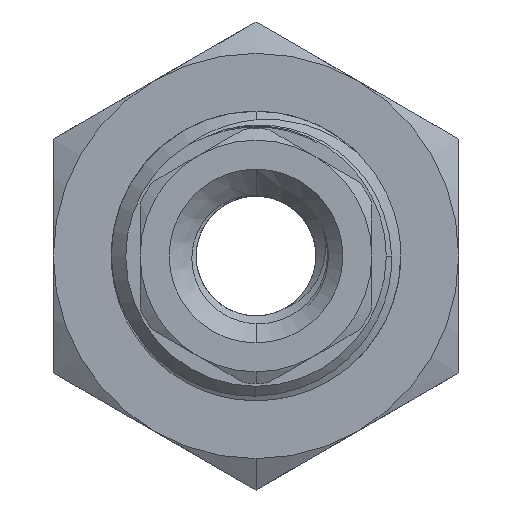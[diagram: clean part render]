
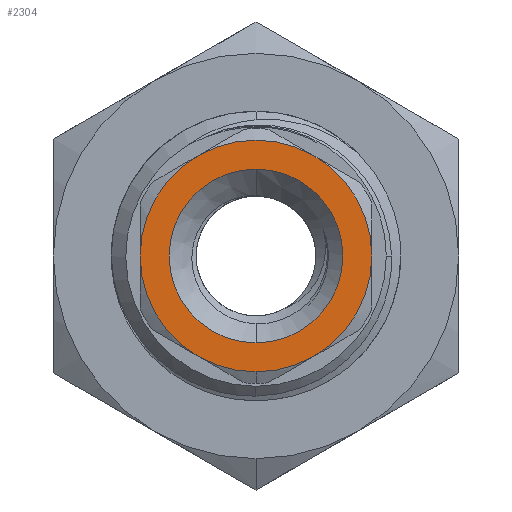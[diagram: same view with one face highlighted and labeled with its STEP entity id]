
A CAD part, front view. The second image highlights one B-rep face of the part: STEP entity #2304.
In plain terms, the highlighted planar face has unit normal (0, -1, 0).
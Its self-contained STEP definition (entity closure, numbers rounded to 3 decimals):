
#31 = AXIS2_PLACEMENT_3D ( 'NONE', #2966, #6868, #4028 ) ;
#69 = AXIS2_PLACEMENT_3D ( 'NONE', #1222, #2945, #7466 ) ;
#383 = CIRCLE ( 'NONE', #4038, 4. ) ;
#445 = EDGE_CURVE ( 'NONE', #1782, #6202, #6078, .T. ) ;
#542 = VERTEX_POINT ( 'NONE', #4516 ) ;
#691 = VERTEX_POINT ( 'NONE', #1859 ) ;
#751 = EDGE_CURVE ( 'NONE', #6894, #6018, #4994, .T. ) ;
#814 = EDGE_CURVE ( 'NONE', #542, #2979, #383, .T. ) ;
#950 = CARTESIAN_POINT ( 'NONE',  ( 2., -10.5, 3.464 ) ) ;
#1109 = CARTESIAN_POINT ( 'NONE',  ( 0., -10.5, 3. ) ) ;
#1178 = CARTESIAN_POINT ( 'NONE',  ( 2., -10.5, -3.464 ) ) ;
#1189 = EDGE_CURVE ( 'NONE', #6018, #691, #1352, .T. ) ;
#1222 = CARTESIAN_POINT ( 'NONE',  ( 0., -10.5, 0. ) ) ;
#1352 = CIRCLE ( 'NONE', #7295, 4. ) ;
#1399 = CIRCLE ( 'NONE', #69, 3. ) ;
#1453 = DIRECTION ( 'NONE',  ( 0.5, 0., -0.866 ) ) ;
#1554 = ORIENTED_EDGE ( 'NONE', *, *, #1189, .T. ) ;
#1782 = VERTEX_POINT ( 'NONE', #2556 ) ;
#1817 = DIRECTION ( 'NONE',  ( -0.5, 0., -0.866 ) ) ;
#1848 = ORIENTED_EDGE ( 'NONE', *, *, #4851, .T. ) ;
#1859 = CARTESIAN_POINT ( 'NONE',  ( -2., -10.5, -3.464 ) ) ;
#1941 = DIRECTION ( 'NONE',  ( 0., -1., 0. ) ) ;
#2277 = ORIENTED_EDGE ( 'NONE', *, *, #751, .T. ) ;
#2280 = CARTESIAN_POINT ( 'NONE',  ( 0., -10.5, 0. ) ) ;
#2304 = ADVANCED_FACE ( 'NONE', ( #5476, #2965 ), #7521, .F. ) ;
#2355 = DIRECTION ( 'NONE',  ( 1., 0., 0. ) ) ;
#2361 = CIRCLE ( 'NONE', #4775, 4. ) ;
#2486 = AXIS2_PLACEMENT_3D ( 'NONE', #4270, #7231, #1453 ) ;
#2556 = CARTESIAN_POINT ( 'NONE',  ( 4., -10.5, 0. ) ) ;
#2589 = VERTEX_POINT ( 'NONE', #1109 ) ;
#2818 = EDGE_CURVE ( 'NONE', #691, #542, #4647, .T. ) ;
#2945 = DIRECTION ( 'NONE',  ( 0., -1., 0. ) ) ;
#2951 = DIRECTION ( 'NONE',  ( 0., -1., 0. ) ) ;
#2965 = FACE_OUTER_BOUND ( 'NONE', #5595, .T. ) ;
#2966 = CARTESIAN_POINT ( 'NONE',  ( 0., -10.5, 0. ) ) ;
#2979 = VERTEX_POINT ( 'NONE', #1178 ) ;
#3091 = DIRECTION ( 'NONE',  ( -0.5, 0., -0.866 ) ) ;
#3116 = CARTESIAN_POINT ( 'NONE',  ( -2., -10.5, 3.464 ) ) ;
#3250 = ORIENTED_EDGE ( 'NONE', *, *, #4076, .T. ) ;
#3351 = DIRECTION ( 'NONE',  ( 0., -1., 0. ) ) ;
#3460 = DIRECTION ( 'NONE',  ( 0., -1., 0. ) ) ;
#3626 = CARTESIAN_POINT ( 'NONE',  ( -4., -10.5, 0. ) ) ;
#3687 = ORIENTED_EDGE ( 'NONE', *, *, #2818, .T. ) ;
#3845 = CARTESIAN_POINT ( 'NONE',  ( 0., -10.5, 0. ) ) ;
#4028 = DIRECTION ( 'NONE',  ( -0.5, 0., 0.866 ) ) ;
#4038 = AXIS2_PLACEMENT_3D ( 'NONE', #5414, #7020, #1817 ) ;
#4076 = EDGE_CURVE ( 'NONE', #6202, #6894, #2361, .T. ) ;
#4106 = DIRECTION ( 'NONE',  ( 0., 1., 0. ) ) ;
#4148 = VERTEX_POINT ( 'NONE', #5224 ) ;
#4222 = ORIENTED_EDGE ( 'NONE', *, *, #814, .T. ) ;
#4270 = CARTESIAN_POINT ( 'NONE',  ( 0., -10.5, 0. ) ) ;
#4383 = DIRECTION ( 'NONE',  ( 0., -1., 0. ) ) ;
#4516 = CARTESIAN_POINT ( 'NONE',  ( 0., -10.5, -4. ) ) ;
#4536 = CIRCLE ( 'NONE', #2486, 4. ) ;
#4537 = ORIENTED_EDGE ( 'NONE', *, *, #445, .T. ) ;
#4631 = AXIS2_PLACEMENT_3D ( 'NONE', #3845, #3351, #5654 ) ;
#4647 = CIRCLE ( 'NONE', #5855, 4. ) ;
#4712 = ORIENTED_EDGE ( 'NONE', *, *, #7360, .F. ) ;
#4761 = EDGE_CURVE ( 'NONE', #2589, #4148, #6110, .T. ) ;
#4775 = AXIS2_PLACEMENT_3D ( 'NONE', #7509, #2951, #7083 ) ;
#4851 = EDGE_CURVE ( 'NONE', #2979, #1782, #4536, .T. ) ;
#4907 = CARTESIAN_POINT ( 'NONE',  ( 0., -10.5, 0. ) ) ;
#4994 = CIRCLE ( 'NONE', #31, 4. ) ;
#5224 = CARTESIAN_POINT ( 'NONE',  ( 0., -10.5, -3. ) ) ;
#5414 = CARTESIAN_POINT ( 'NONE',  ( 0., -10.5, 0. ) ) ;
#5471 = DIRECTION ( 'NONE',  ( 0., 0., 1. ) ) ;
#5476 = FACE_BOUND ( 'NONE', #6714, .T. ) ;
#5595 = EDGE_LOOP ( 'NONE', ( #2277, #1554, #3687, #4222, #1848, #4537, #3250 ) ) ;
#5621 = AXIS2_PLACEMENT_3D ( 'NONE', #4907, #4383, #5471 ) ;
#5654 = DIRECTION ( 'NONE',  ( 1., 0., 0. ) ) ;
#5855 = AXIS2_PLACEMENT_3D ( 'NONE', #6116, #1941, #3091 ) ;
#6018 = VERTEX_POINT ( 'NONE', #3626 ) ;
#6078 = CIRCLE ( 'NONE', #4631, 4. ) ;
#6093 = AXIS2_PLACEMENT_3D ( 'NONE', #2280, #4106, #2355 ) ;
#6110 = CIRCLE ( 'NONE', #5621, 3. ) ;
#6116 = CARTESIAN_POINT ( 'NONE',  ( 0., -10.5, 0. ) ) ;
#6202 = VERTEX_POINT ( 'NONE', #950 ) ;
#6417 = CARTESIAN_POINT ( 'NONE',  ( 0., -10.5, 0. ) ) ;
#6701 = ORIENTED_EDGE ( 'NONE', *, *, #4761, .F. ) ;
#6714 = EDGE_LOOP ( 'NONE', ( #4712, #6701 ) ) ;
#6827 = DIRECTION ( 'NONE',  ( -1., 0., 0. ) ) ;
#6868 = DIRECTION ( 'NONE',  ( 0., -1., 0. ) ) ;
#6894 = VERTEX_POINT ( 'NONE', #3116 ) ;
#7020 = DIRECTION ( 'NONE',  ( 0., -1., 0. ) ) ;
#7083 = DIRECTION ( 'NONE',  ( 0.5, 0., 0.866 ) ) ;
#7231 = DIRECTION ( 'NONE',  ( 0., -1., 0. ) ) ;
#7295 = AXIS2_PLACEMENT_3D ( 'NONE', #6417, #3460, #6827 ) ;
#7360 = EDGE_CURVE ( 'NONE', #4148, #2589, #1399, .T. ) ;
#7466 = DIRECTION ( 'NONE',  ( 0., 0., -1. ) ) ;
#7509 = CARTESIAN_POINT ( 'NONE',  ( 0., -10.5, 0. ) ) ;
#7521 = PLANE ( 'NONE',  #6093 ) ;
